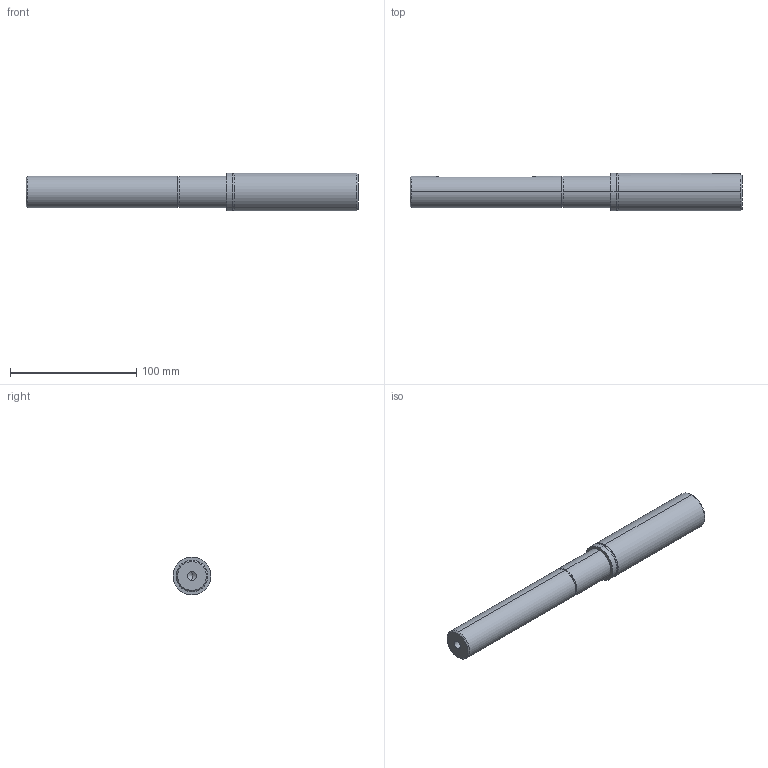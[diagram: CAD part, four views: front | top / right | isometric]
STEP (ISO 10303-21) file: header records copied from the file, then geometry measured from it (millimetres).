
FILE_DESCRIPTION (( 'STEP AP203' ), '1' );
FILE_NAME ('084.812.004.STEP', '2013-01-29T14:03:22', ( 'Alusic' ), ( 'Alusic' ), 'SwSTEP 2.0', 'SolidWorks 2011', '' );
FILE_SCHEMA (( 'CONFIG_CONTROL_DESIGN' ));
Length unit declared in the file: millimetre
Products named in the file (1): 084.812.004
Bounding box: 263 x 30 x 30 mm (x, y, z)
Volume: 147234.9 mm3; surface area: 25093.8 mm2
Topology: 1 solids, 1 shells, 37 faces, 81 edges, 51 vertices
Faces by surface type: cylinder 17, plane 13, cone 7
Entity records: 1180 total; most frequent: CARTESIAN_POINT 271, DIRECTION 187, ORIENTED_EDGE 158, EDGE_CURVE 79, AXIS2_PLACEMENT_3D 75, VERTEX_POINT 51, EDGE_LOOP 44, LINE 37
